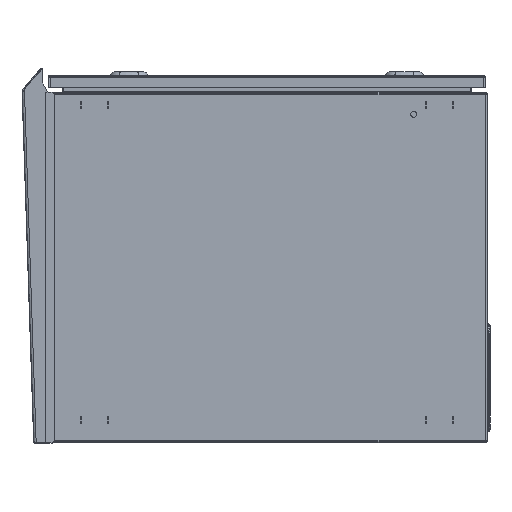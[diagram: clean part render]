
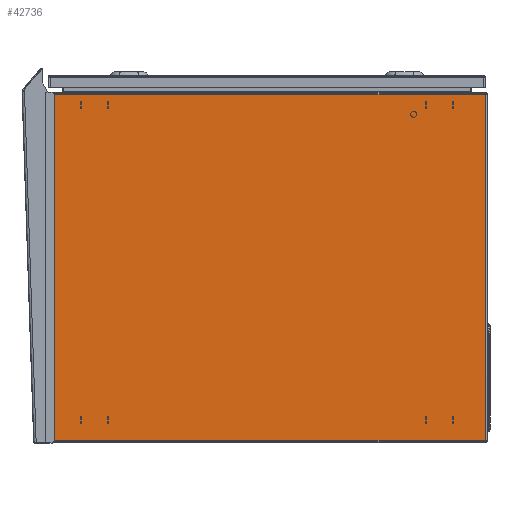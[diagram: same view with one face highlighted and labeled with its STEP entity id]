
A CAD part, left-side view. The second image highlights one B-rep face of the part: STEP entity #42736.
In plain terms, the highlighted planar face has unit normal (-1, 0, 0).
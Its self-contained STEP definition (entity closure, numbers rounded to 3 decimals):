
#1279 = LINE ( 'NONE', #5993, #5930 ) ;
#1558 = VERTEX_POINT ( 'NONE', #22426 ) ;
#2496 = EDGE_CURVE ( 'NONE', #44750, #48529, #1279, .T. ) ;
#3768 = LINE ( 'NONE', #35629, #41740 ) ;
#4649 = DIRECTION ( 'NONE',  ( 0., -1., 0. ) ) ;
#5382 = CARTESIAN_POINT ( 'NONE',  ( -300., -297.5, 1.5 ) ) ;
#5930 = VECTOR ( 'NONE', #32577, 1000. ) ;
#5993 = CARTESIAN_POINT ( 'NONE',  ( -300., 300., 474.5 ) ) ;
#11849 = AXIS2_PLACEMENT_3D ( 'NONE', #19351, #29314, #37013 ) ;
#11948 = VERTEX_POINT ( 'NONE', #26535 ) ;
#19219 = EDGE_LOOP ( 'NONE', ( #21433, #42814, #56944, #40966 ) ) ;
#19351 = CARTESIAN_POINT ( 'NONE',  ( -300., -300., 1.5 ) ) ;
#19559 = DIRECTION ( 'NONE',  ( 0., 0., 1. ) ) ;
#21433 = ORIENTED_EDGE ( 'NONE', *, *, #49135, .T. ) ;
#22426 = CARTESIAN_POINT ( 'NONE',  ( -300., 297.5, 2.35 ) ) ;
#23195 = CARTESIAN_POINT ( 'NONE',  ( -300., 297.5, 1.5 ) ) ;
#26535 = CARTESIAN_POINT ( 'NONE',  ( -300., -297.5, 2.35 ) ) ;
#29314 = DIRECTION ( 'NONE',  ( 1., 0., 0. ) ) ;
#29784 = CARTESIAN_POINT ( 'NONE',  ( -300., 297.5, 474.5 ) ) ;
#32577 = DIRECTION ( 'NONE',  ( 0., -1., 0. ) ) ;
#35629 = CARTESIAN_POINT ( 'NONE',  ( -300., -300., 2.35 ) ) ;
#37013 = DIRECTION ( 'NONE',  ( 0., 0., -1. ) ) ;
#37593 = DIRECTION ( 'NONE',  ( 0., 0., -1. ) ) ;
#39285 = EDGE_CURVE ( 'NONE', #11948, #48529, #45792, .T. ) ;
#40966 = ORIENTED_EDGE ( 'NONE', *, *, #2496, .F. ) ;
#41436 = LINE ( 'NONE', #23195, #55898 ) ;
#41740 = VECTOR ( 'NONE', #4649, 1000. ) ;
#42736 = ADVANCED_FACE ( 'NONE', ( #55567 ), #56134, .F. ) ;
#42814 = ORIENTED_EDGE ( 'NONE', *, *, #54461, .T. ) ;
#43824 = VECTOR ( 'NONE', #19559, 1000. ) ;
#44461 = CARTESIAN_POINT ( 'NONE',  ( -300., -297.5, 474.5 ) ) ;
#44750 = VERTEX_POINT ( 'NONE', #29784 ) ;
#45792 = LINE ( 'NONE', #5382, #43824 ) ;
#48529 = VERTEX_POINT ( 'NONE', #44461 ) ;
#49135 = EDGE_CURVE ( 'NONE', #44750, #1558, #41436, .T. ) ;
#54461 = EDGE_CURVE ( 'NONE', #1558, #11948, #3768, .T. ) ;
#55567 = FACE_OUTER_BOUND ( 'NONE', #19219, .T. ) ;
#55898 = VECTOR ( 'NONE', #37593, 1000. ) ;
#56134 = PLANE ( 'NONE',  #11849 ) ;
#56944 = ORIENTED_EDGE ( 'NONE', *, *, #39285, .T. ) ;
